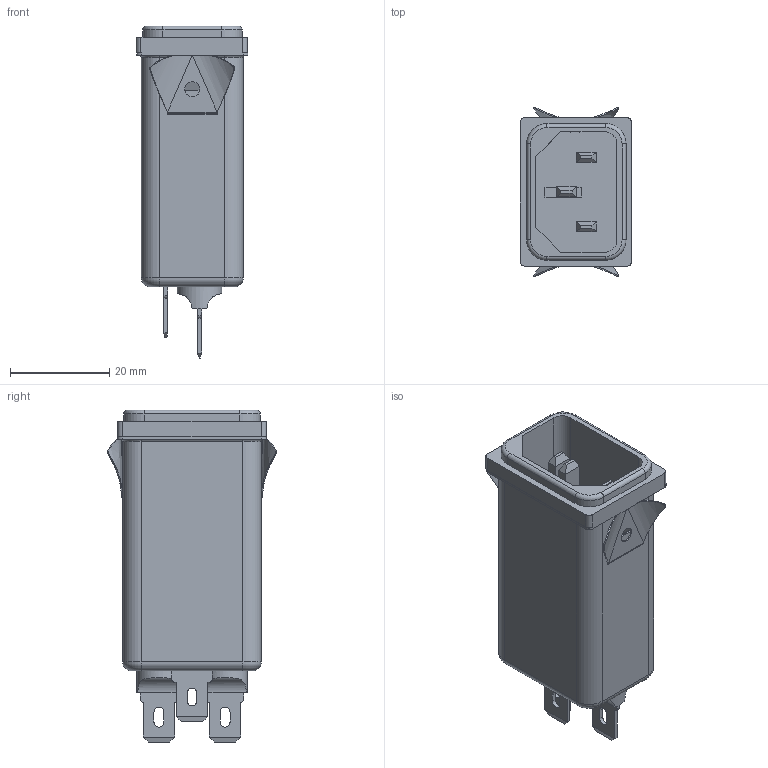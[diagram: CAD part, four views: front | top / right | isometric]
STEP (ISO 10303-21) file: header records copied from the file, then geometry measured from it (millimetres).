
FILE_DESCRIPTION((''),'2;1');
FILE_NAME('D:\_ PRODUCT\FN_PART_FOR_FN9222-XX-07\FN_UPDATE\DB_06 version_Update\3D_inventer\234-177C\FN9222ES-xx-06.stp','2013-06-06T10:23:10',('sayan.penton'),(''),'Autodesk Inventor 2010','Autodesk Inventor 2010','');
FILE_SCHEMA(('AUTOMOTIVE_DESIGN { 1 0 10303 214 1 1 1 1 }'));
Length unit declared in the file: millimetre
Products named in the file (1): Part4
Bounding box: 22.52 x 34.18 x 66.8 mm (x, y, z)
Volume: 8418.8 mm3; surface area: 20152.3 mm2
Topology: 1 solids, 3 shells, 627 faces, 1851 edges, 1200 vertices
Faces by surface type: plane 440, cylinder 112, bspline 61, torus 14
Full cylindrical faces by diameter (mm): 3 x1, 9 x2
Entity records: 22353 total; most frequent: CARTESIAN_POINT 4902, ORIENTED_EDGE 3690, DIRECTION 3225, EDGE_CURVE 1845, VECTOR 1471, LINE 1471, VERTEX_POINT 1198, AXIS2_PLACEMENT_3D 877
